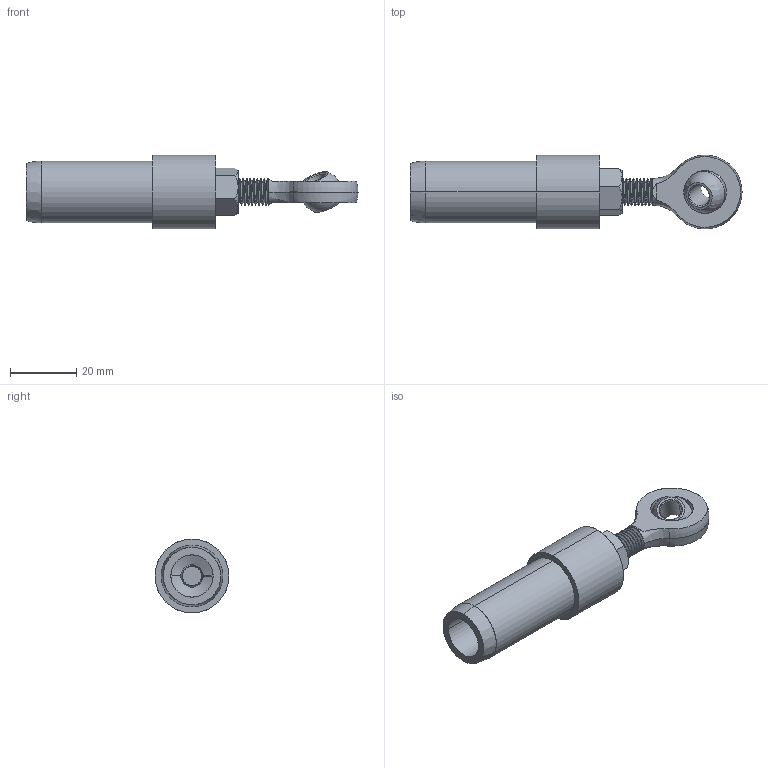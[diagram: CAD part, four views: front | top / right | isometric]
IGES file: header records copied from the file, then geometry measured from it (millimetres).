
Start section: SolidWorks IGES file using analytic representation for surfaces
Global section: file name: \\SERVER3\Design\_New Design Drive Folder List\_Design Vault\AAI\Modular Round Tube Connectors\Solidworks Models\STP Files\12202013\0.750 Inch Modular Connectors\DRP-002-0558-02.IGS; native system: SolidWorks 2013; preprocessor: SolidWorks 2013; author: tbraun; date: 131220.124138; units: inch
Bounding box: 100.01 x 22.23 x 22.23 mm (x, y, z)
Surface area: 10857.3 mm2 (no closed solid volume)
Topology: 0 solids, 0 shells, 169 faces, 2218 edges, 2215 vertices
Faces by surface type: revolution 132, bspline 37
